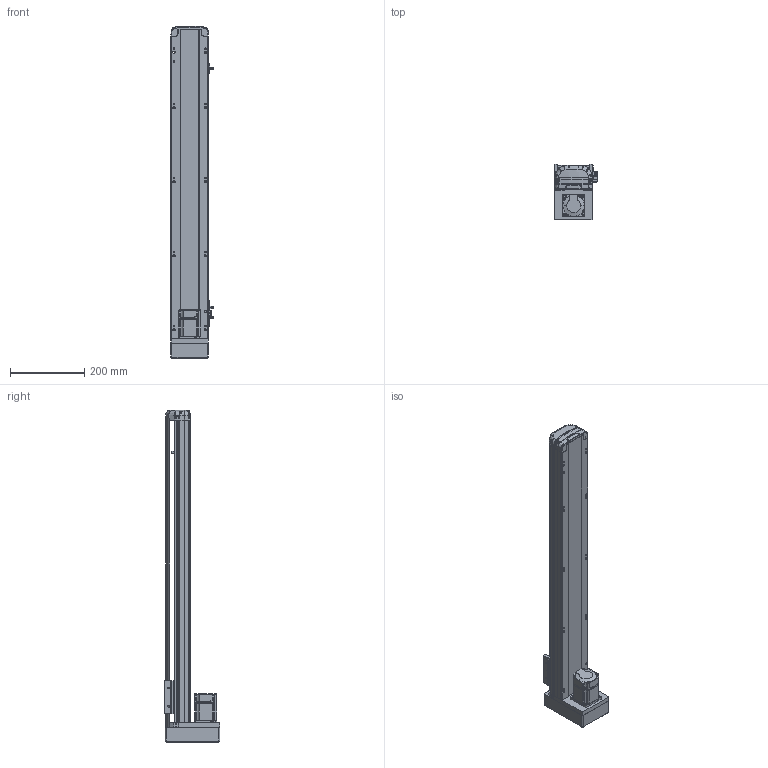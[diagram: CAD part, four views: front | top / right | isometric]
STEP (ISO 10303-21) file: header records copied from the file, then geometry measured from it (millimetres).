
FILE_DESCRIPTION (( 'STEP AP214' ), '1' );
FILE_NAME ('RTH10-XX-650-M-M20-C4.STEP', '2025-10-25T04:50:51', ( 'Microsoft' ), ( 'Microsoft' ), 'SwSTEP 2.0', 'SolidWorks 2018', '' );
FILE_SCHEMA (( 'AUTOMOTIVE_DESIGN' ));
Length unit declared in the file: millimetre
Products named in the file (10): RTH10-XX-650-M-M20-C4; N_RTH13-L-012覜茼え俋离^RTH10-XX-XX-M-M20-C4; N_RTH12-M-018-裔赽^RTH10-XX-XX-M-M20-C4; N_RTH12-M-011P-臏倰第菁釱^RTH10-XX-XX-M-M20-C4; N_RTH12-GY-004-賑釱^RTH10-XX-XX-M-M20-C4; N_200W-1^RTH10-XX-XX-M-M20-C4; N_RTH12-GY-001P^RTH10-XX-XX-M-M20-C4; N_RTH12-M-007P-奻裔^RTH10-XX-XX-M-M20-C4; N_RTH12-M-008-萇儂啣^RTH10-XX-XX-M-M20-C4; N_OMRON EE-SX672 传感器^RTH10-XX-XX-M-M20-C4
Assembly tree (11 placements, depth 2):
  RTH10-XX-650-M-M20-C4
    N_RTH12-M-011P-臏倰第菁釱^RTH10-XX-XX-M-M20-C4
    N_RTH13-L-012覜茼え俋离^RTH10-XX-XX-M-M20-C4
    N_OMRON EE-SX672 传感器^RTH10-XX-XX-M-M20-C4  x3
    N_200W-1^RTH10-XX-XX-M-M20-C4
    N_RTH12-M-007P-奻裔^RTH10-XX-XX-M-M20-C4
    N_RTH12-M-008-萇儂啣^RTH10-XX-XX-M-M20-C4
    N_RTH12-M-018-裔赽^RTH10-XX-XX-M-M20-C4
    N_RTH12-GY-004-賑釱^RTH10-XX-XX-M-M20-C4
    N_RTH12-GY-001P^RTH10-XX-XX-M-M20-C4
Bounding box: 116.5 x 149 x 897.14 mm (x, y, z)
Volume: 4259435.7 mm3; surface area: 633031 mm2
Topology: 10 solids, 12 shells, 1989 faces, 5548 edges, 3643 vertices
Faces by surface type: plane 991, cylinder 491, bspline 472, cone 29, sphere 4, torus 2
Entity records: 59938 total; most frequent: CARTESIAN_POINT 23443, ORIENTED_EDGE 8168, DIRECTION 6338, EDGE_CURVE 4090, VERTEX_POINT 2687, VECTOR 2198, LINE 2198, AXIS2_PLACEMENT_3D 2070
